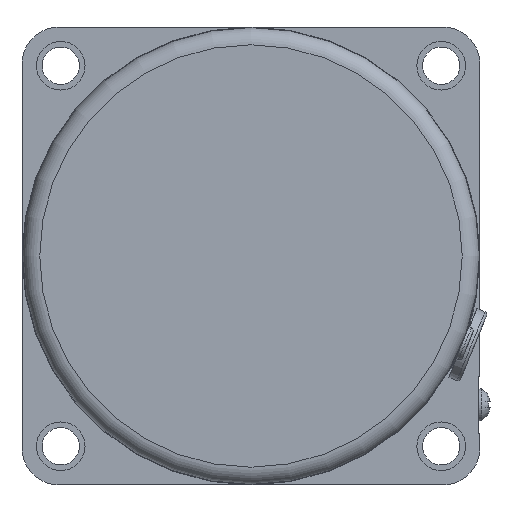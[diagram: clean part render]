
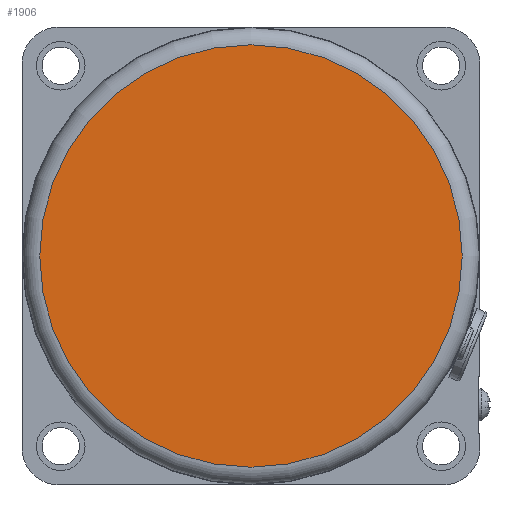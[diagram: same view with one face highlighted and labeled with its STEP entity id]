
A CAD part, left-side view. The second image highlights one B-rep face of the part: STEP entity #1906.
In plain terms, the highlighted planar face has unit normal (-1, 0, 0).
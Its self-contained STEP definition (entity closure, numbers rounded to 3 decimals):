
#414=FACE_OUTER_BOUND('',#548,.T.);
#548=EDGE_LOOP('',(#1240));
#704=CIRCLE('',#2042,36.9);
#799=VERTEX_POINT('',#2858);
#978=EDGE_CURVE('',#799,#799,#704,.T.);
#1240=ORIENTED_EDGE('',*,*,#978,.F.);
#1706=PLANE('',#2044);
#1906=ADVANCED_FACE('',(#414),#1706,.T.);
#2042=AXIS2_PLACEMENT_3D('',#2859,#2285,#2286);
#2044=AXIS2_PLACEMENT_3D('',#2861,#2289,#2290);
#2285=DIRECTION('center_axis',(1.,0.,0.));
#2286=DIRECTION('ref_axis',(0.,0.,
1.));
#2289=DIRECTION('center_axis',(-1.,0.,0.));
#2290=DIRECTION('ref_axis',(0.,0.,1.));
#2858=CARTESIAN_POINT('',(-38.5,0.,-36.9));
#2859=CARTESIAN_POINT('Origin',(-38.5,0.,0.));
#2861=CARTESIAN_POINT('Origin',(-38.5,0.,0.));
